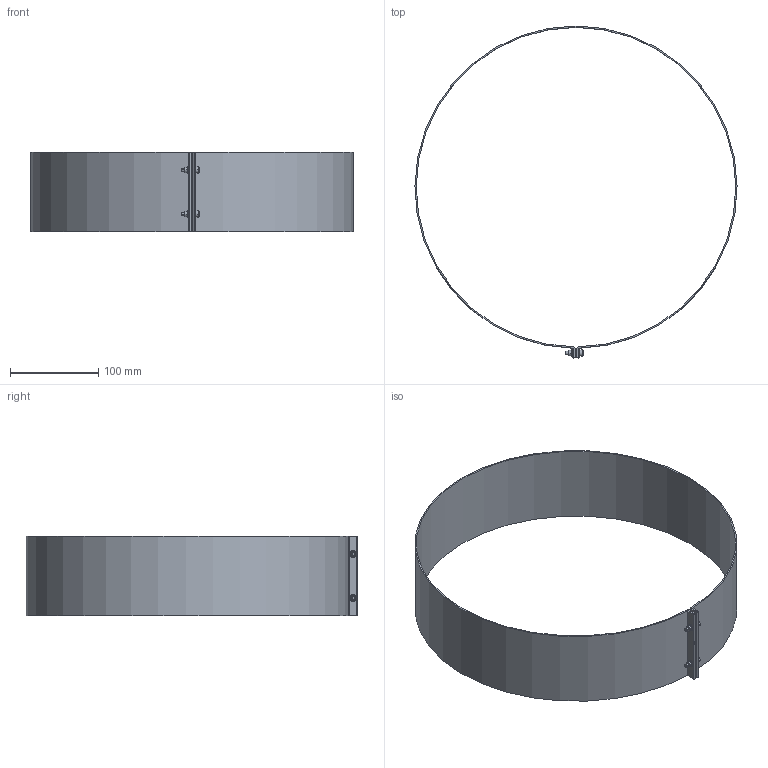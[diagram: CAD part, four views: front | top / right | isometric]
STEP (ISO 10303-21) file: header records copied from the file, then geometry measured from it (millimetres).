
FILE_DESCRIPTION (( 'STEP AP214' ), '1' );
FILE_NAME ('1138 Schutzring.STEP', '2025-03-27T06:50:23', ( '' ), ( '' ), 'SwSTEP 2.0', 'SolidWorks 2022', '' );
FILE_SCHEMA (( 'AUTOMOTIVE_DESIGN' ));
Length unit declared in the file: millimetre
Products named in the file (2): 10068522_000; 1138 Schutzring
Assembly tree (1 placements, depth 2):
  1138 Schutzring
    10068522_000
Bounding box: 365.98 x 377 x 90 mm (x, y, z)
Volume: 160450.1 mm3; surface area: 218117.6 mm2
Topology: 5 solids, 5 shells, 136 faces, 304 edges, 186 vertices
Faces by surface type: cylinder 58, plane 50, torus 16, cone 12
Entity records: 5422 total; most frequent: DIRECTION 740, CARTESIAN_POINT 630, ORIENTED_EDGE 608, EDGE_CURVE 304, AXIS2_PLACEMENT_3D 296, VERTEX_POINT 186, EDGE_LOOP 164, CIRCLE 156
